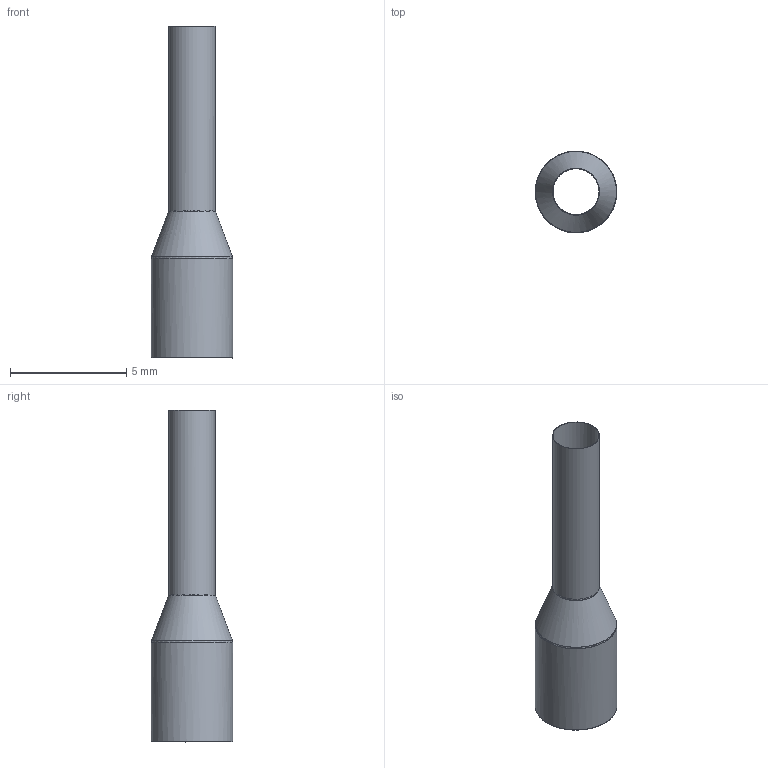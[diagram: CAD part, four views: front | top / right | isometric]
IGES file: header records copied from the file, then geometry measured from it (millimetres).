
Global section: file name: Filename.iges; native system: Open CASCADE 6.8; preprocessor: Open CASCADE IGES processor 6.8; date: 20170224.134036; units: millimetre
Bounding box: 3.51 x 3.51 x 14.3 mm (x, y, z)
Surface area: 232.9 mm2 (no closed solid volume)
Topology: 0 solids, 0 shells, 8 faces, 28 edges, 16 vertices
Faces by surface type: revolution 6, plane 2
